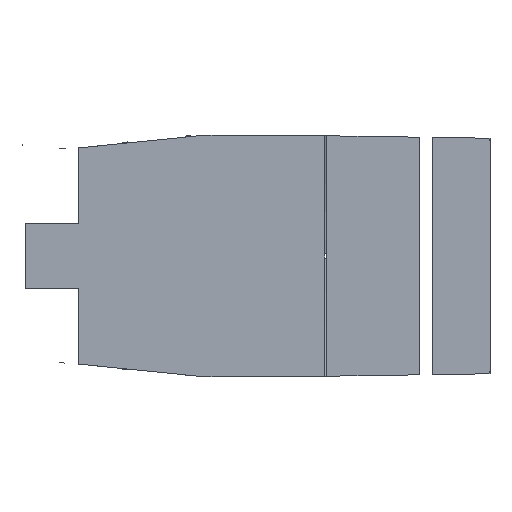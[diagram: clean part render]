
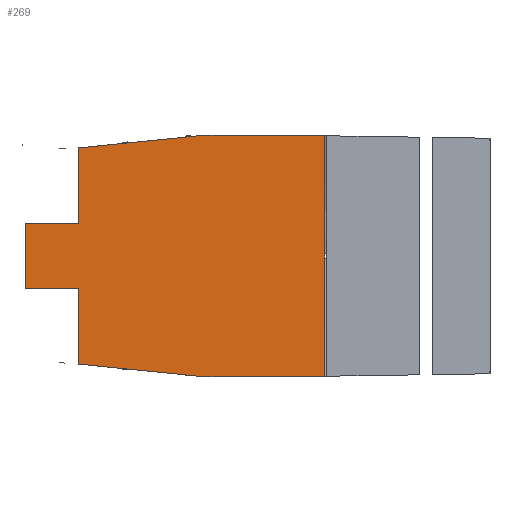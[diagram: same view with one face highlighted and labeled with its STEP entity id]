
A CAD part, top view. The second image highlights one B-rep face of the part: STEP entity #269.
In plain terms, the highlighted planar face has unit normal (0, 0, 1).
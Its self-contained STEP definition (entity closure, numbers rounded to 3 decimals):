
#102=LINE('',#2215,#136);
#104=LINE('',#2224,#138);
#106=LINE('',#2233,#140);
#109=LINE('',#2337,#145);
#110=LINE('',#2339,#146);
#111=LINE('',#2341,#147);
#113=LINE('',#2351,#149);
#116=LINE('',#2398,#152);
#118=LINE('',#2429,#155);
#119=LINE('',#2431,#156);
#136=VECTOR('',#1041,1.);
#138=VECTOR('',#1045,1.);
#140=VECTOR('',#1049,1.);
#145=VECTOR('',#1056,1.);
#146=VECTOR('',#1059,1.);
#147=VECTOR('',#1062,1.);
#149=VECTOR('',#1066,1.);
#152=VECTOR('',#1071,1.);
#155=VECTOR('',#1078,1.);
#156=VECTOR('',#1079,1.);
#223=PLANE('',#1004);
#269=ADVANCED_FACE('',(#331),#223,.F.);
#331=FACE_OUTER_BOUND('',#383,.T.);
#383=EDGE_LOOP('',(#552,#553,#554,#555,#556,#557,#558,#559,#560,#561,#562,
#563,#564,#565));
#552=ORIENTED_EDGE('',*,*,#823,.F.);
#553=ORIENTED_EDGE('',*,*,#796,.T.);
#554=ORIENTED_EDGE('',*,*,#799,.F.);
#555=ORIENTED_EDGE('',*,*,#838,.T.);
#556=ORIENTED_EDGE('',*,*,#845,.T.);
#557=ORIENTED_EDGE('',*,*,#846,.T.);
#558=ORIENTED_EDGE('',*,*,#827,.T.);
#559=ORIENTED_EDGE('',*,*,#824,.T.);
#560=ORIENTED_EDGE('',*,*,#847,.T.);
#561=ORIENTED_EDGE('',*,*,#843,.F.);
#562=ORIENTED_EDGE('',*,*,#802,.F.);
#563=ORIENTED_EDGE('',*,*,#806,.T.);
#564=ORIENTED_EDGE('',*,*,#809,.F.);
#565=ORIENTED_EDGE('',*,*,#822,.F.);
#693=VERTEX_POINT('',#2213);
#695=VERTEX_POINT('',#2216);
#697=VERTEX_POINT('',#2225);
#699=VERTEX_POINT('',#2234);
#700=VERTEX_POINT('',#2235);
#703=VERTEX_POINT('',#2256);
#705=VERTEX_POINT('',#2274);
#715=VERTEX_POINT('',#2336);
#716=VERTEX_POINT('',#2342);
#717=VERTEX_POINT('',#2343);
#719=VERTEX_POINT('',#2352);
#728=VERTEX_POINT('',#2396);
#732=VERTEX_POINT('',#2416);
#733=VERTEX_POINT('',#2430);
#796=EDGE_CURVE('',#695,#693,#102,.T.);
#799=EDGE_CURVE('',#697,#693,#104,.T.);
#802=EDGE_CURVE('',#699,#700,#106,.T.);
#806=EDGE_CURVE('',#699,#703,#925,.T.);
#809=EDGE_CURVE('',#705,#703,#929,.T.);
#822=EDGE_CURVE('',#715,#705,#109,.T.);
#823=EDGE_CURVE('',#695,#715,#110,.T.);
#824=EDGE_CURVE('',#716,#717,#111,.T.);
#827=EDGE_CURVE('',#719,#716,#113,.T.);
#838=EDGE_CURVE('',#697,#728,#116,.T.);
#843=EDGE_CURVE('',#700,#732,#954,.T.);
#845=EDGE_CURVE('',#728,#733,#118,.T.);
#846=EDGE_CURVE('',#733,#719,#119,.T.);
#847=EDGE_CURVE('',#717,#732,#957,.T.);
#925=B_SPLINE_CURVE_WITH_KNOTS('',3,(#2252,#2253,#2254,#2255),
 .UNSPECIFIED.,.F.,.F.,(4,4),(0.,1.),.UNSPECIFIED.);
#929=B_SPLINE_CURVE_WITH_KNOTS('',1,(#2272,#2273),.UNSPECIFIED.,.F.,.F.,
(2,2),(0.,1.),.UNSPECIFIED.);
#954=B_SPLINE_CURVE_WITH_KNOTS('',1,(#2414,#2415),.UNSPECIFIED.,.F.,.F.,
(2,2),(0.,1.),.UNSPECIFIED.);
#957=B_SPLINE_CURVE_WITH_KNOTS('',3,(#2432,#2433,#2434,#2435),
 .UNSPECIFIED.,.F.,.F.,(4,4),(0.,1.),.UNSPECIFIED.);
#1004=AXIS2_PLACEMENT_3D('',#2436,#1080,#1081);
#1041=DIRECTION('',(0.,-1.,0.));
#1045=DIRECTION('',(1.,0.,0.));
#1049=DIRECTION('',(0.,-1.,0.));
#1056=DIRECTION('',(1.,0.,0.));
#1059=DIRECTION('',(0.995,0.1,0.));
#1062=DIRECTION('',(1.,0.,0.));
#1066=DIRECTION('',(0.995,-0.1,0.));
#1071=DIRECTION('',(0.,-1.,0.));
#1078=DIRECTION('',(1.,0.,0.));
#1079=DIRECTION('',(0.,-1.,0.));
#1080=DIRECTION('',(0.,0.,-1.));
#1081=DIRECTION('',(0.,1.,0.));
#2213=CARTESIAN_POINT('',(2614.344,230.,-660.718));
#2215=CARTESIAN_POINT('',(2614.344,-920.086,-660.718));
#2216=CARTESIAN_POINT('',(2614.344,756.049,-660.718));
#2224=CARTESIAN_POINT('',(5000.,230.,-660.718));
#2225=CARTESIAN_POINT('',(2240.,230.,-660.718));
#2233=CARTESIAN_POINT('',(4335.214,-920.086,-660.718));
#2234=CARTESIAN_POINT('',(4335.214,840.913,-660.718));
#2235=CARTESIAN_POINT('',(4335.214,-840.913,-660.718));
#2252=CARTESIAN_POINT('',(4335.214,840.913,-660.718));
#2253=CARTESIAN_POINT('',(4340.214,840.913,-660.718));
#2254=CARTESIAN_POINT('',(4345.214,840.913,-660.718));
#2255=CARTESIAN_POINT('',(4350.214,840.913,-660.718));
#2256=CARTESIAN_POINT('',(4350.214,840.913,-660.718));
#2272=CARTESIAN_POINT('',(4103.881,844.559,-660.718));
#2273=CARTESIAN_POINT('',(4350.214,840.913,-660.718));
#2274=CARTESIAN_POINT('',(4103.881,844.559,-660.718));
#2336=CARTESIAN_POINT('',(3491.439,844.559,-660.718));
#2337=CARTESIAN_POINT('',(3491.188,844.559,-660.718));
#2339=CARTESIAN_POINT('',(2210.188,715.264,-660.718));
#2341=CARTESIAN_POINT('',(3491.188,-844.559,-660.718));
#2342=CARTESIAN_POINT('',(3491.439,-844.559,-660.718));
#2343=CARTESIAN_POINT('',(4103.881,-844.559,-660.718));
#2351=CARTESIAN_POINT('',(2210.188,-715.264,-660.718));
#2352=CARTESIAN_POINT('',(2614.344,-756.049,-660.718));
#2396=CARTESIAN_POINT('',(2240.,-230.,-660.718));
#2398=CARTESIAN_POINT('',(2240.,-920.086,-660.718));
#2414=CARTESIAN_POINT('',(4335.214,-840.913,-660.718));
#2415=CARTESIAN_POINT('',(4350.214,-840.913,-660.718));
#2416=CARTESIAN_POINT('',(4350.214,-840.913,-660.718));
#2429=CARTESIAN_POINT('',(5000.,-230.,-660.718));
#2430=CARTESIAN_POINT('',(2614.344,-230.,-660.718));
#2431=CARTESIAN_POINT('',(2614.344,-920.086,-660.718));
#2432=CARTESIAN_POINT('',(4103.881,-844.559,-660.718));
#2433=CARTESIAN_POINT('',(4185.992,-843.344,-660.718));
#2434=CARTESIAN_POINT('',(4268.103,-842.128,-660.718));
#2435=CARTESIAN_POINT('',(4350.214,-840.913,-660.718));
#2436=CARTESIAN_POINT('',(5000.,-920.086,-660.718));
